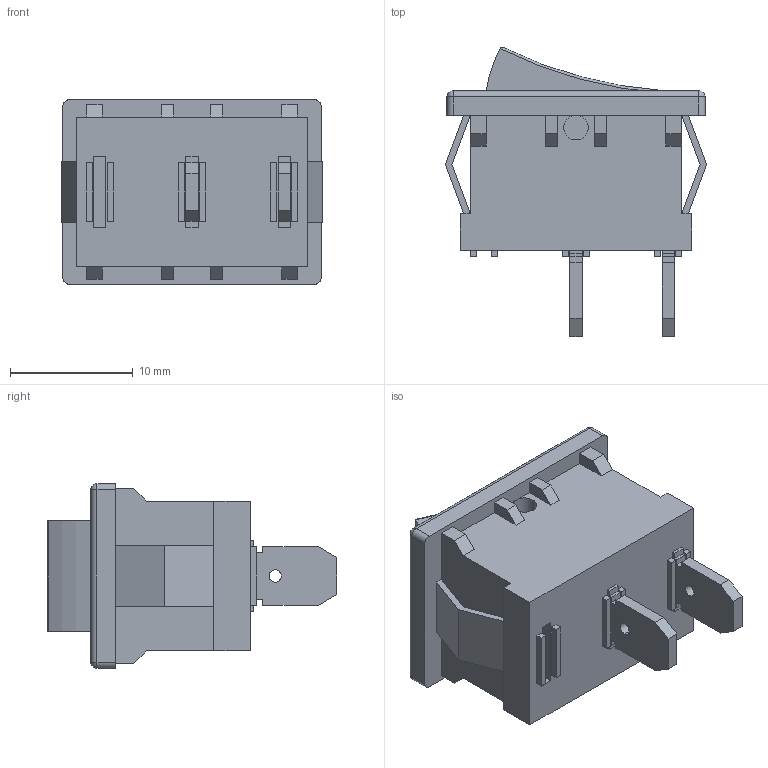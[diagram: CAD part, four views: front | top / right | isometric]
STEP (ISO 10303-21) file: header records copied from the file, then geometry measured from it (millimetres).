
FILE_DESCRIPTION(/* description */ (''),/* implementation_level */ '2;1');
FILE_NAME(/* name */ 'C:/Users/User/Desktop/Rocker Switch v1.step',/* time_stamp */ '2020-09-21T13:39:40+08:00',/* author */ (''),/* organization */ (''),/* preprocessor_version */ 'ST-DEVELOPER v18.1',/* originating_system */ 'Autodesk Translation Framework v9.3.0.1241',/* authorisation */ '');
FILE_SCHEMA (('AUTOMOTIVE_DESIGN { 1 0 10303 214 3 1 1 }'));
Length unit declared in the file: millimetre
Products named in the file (2): Rocker Switch; Rocker Switch_1
Assembly tree (1 placements, depth 2):
  Rocker Switch
    Rocker Switch_1
Bounding box: 21.27 x 23.54 x 15 mm (x, y, z)
Surface area: 2603.4 mm2 (no closed solid volume)
Topology: 0 solids, 164 shells, 164 faces, 868 edges, 862 vertices
Faces by surface type: plane 138, cylinder 20, sphere 4, torus 2
Entity records: 9252 total; most frequent: CARTESIAN_POINT 2280, DIRECTION 1262, EDGE_CURVE 864, ORIENTED_EDGE 864, VERTEX_POINT 862, LINE 784, VECTOR 784, AXIS2_PLACEMENT_3D 239
